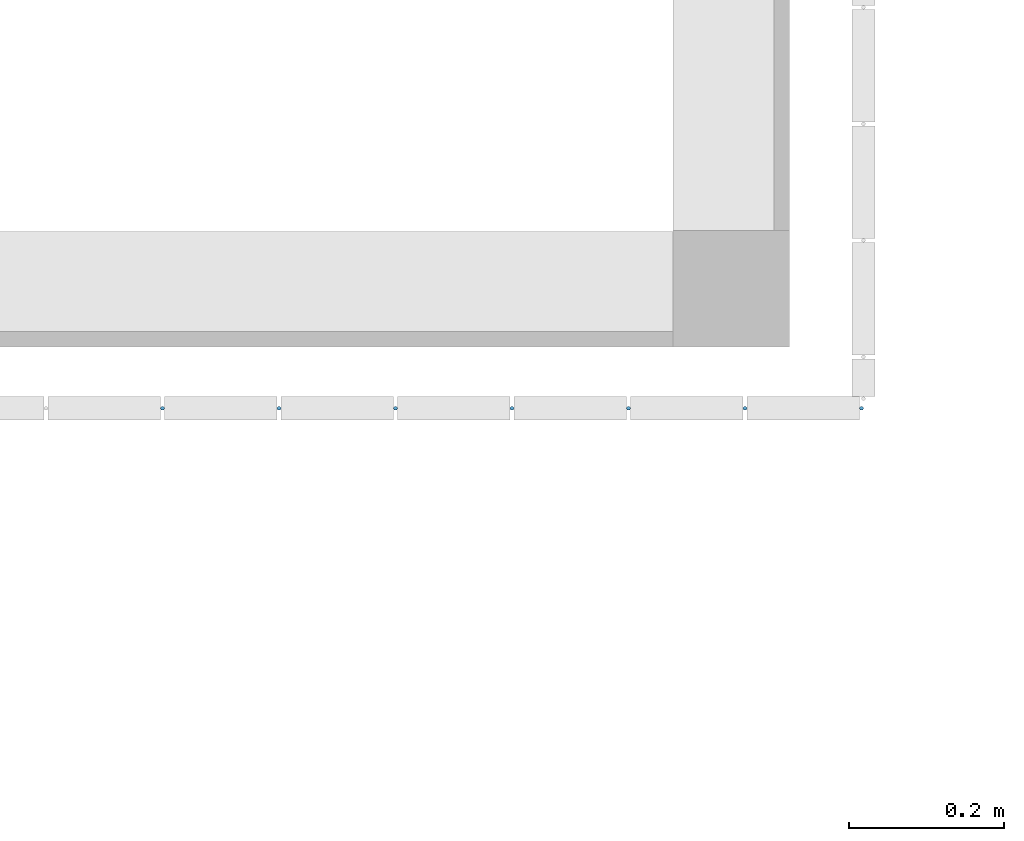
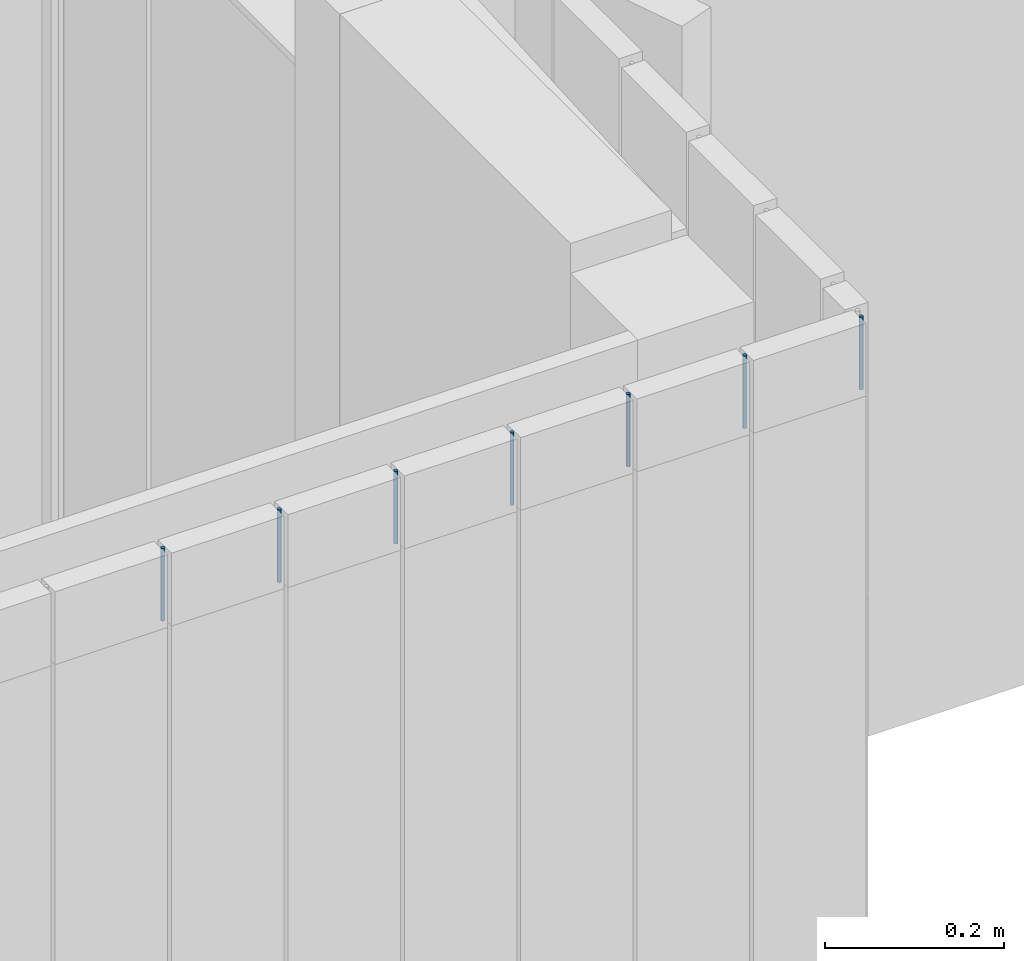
# One storey, part 64 of 81: 7 members, 1 element without a shape of its own.
"""IFC2X3 building model written with IfcOpenShell, lengths in metres."""

from ifc_helpers import new_model, entity, si_unit, converted_unit, derived_unit, direction, frame, frame_2d, origin, place, context, subcontext, project, spatial, circle, extrude, source, transform, mapped, material, type_object, type_shapes, element, aggregate, save


model = new_model("IFC2X3")

# Units and contexts
model_context = context("Model", 3, precision=1e-05, world=origin(), true_north=direction((6.12303176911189e-17, 1.0)))
body_context = subcontext(model_context, "Body", "Model", "MODEL_VIEW")
ifc_project = project(units=[si_unit("LENGTHUNIT", "METRE"), si_unit("AREAUNIT", "SQUARE_METRE"), si_unit("VOLUMEUNIT", "CUBIC_METRE"), converted_unit("PLANEANGLEUNIT", "DEGREE", entity("IfcRatioMeasure", 0.0174532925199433), si_unit("PLANEANGLEUNIT", "RADIAN"), dimensions=[0, 0, 0, 0, 0, 0, 0]), si_unit("MASSUNIT", "GRAM", prefix="KILO"), derived_unit("MASSDENSITYUNIT", [(si_unit("MASSUNIT", "GRAM", prefix="KILO"), 1), (si_unit("LENGTHUNIT", "METRE"), -3)]), derived_unit("MOMENTOFINERTIAUNIT", [(si_unit("LENGTHUNIT", "METRE"), 4)]), si_unit("TIMEUNIT", "SECOND"), si_unit("FREQUENCYUNIT", "HERTZ"), si_unit("THERMODYNAMICTEMPERATUREUNIT", "DEGREE_CELSIUS"), derived_unit("THERMALTRANSMITTANCEUNIT", [(si_unit("MASSUNIT", "GRAM", prefix="KILO"), 1), (si_unit("THERMODYNAMICTEMPERATUREUNIT", "KELVIN"), -1), (si_unit("TIMEUNIT", "SECOND"), -3)]), derived_unit("VOLUMETRICFLOWRATEUNIT", [(si_unit("LENGTHUNIT", "METRE"), 3), (si_unit("TIMEUNIT", "SECOND"), -1)]), si_unit("ELECTRICCURRENTUNIT", "AMPERE"), si_unit("ELECTRICVOLTAGEUNIT", "VOLT"), si_unit("POWERUNIT", "WATT"), si_unit("FORCEUNIT", "NEWTON", prefix="KILO"), si_unit("ILLUMINANCEUNIT", "LUX"), si_unit("LUMINOUSFLUXUNIT", "LUMEN"), si_unit("LUMINOUSINTENSITYUNIT", "CANDELA"), derived_unit("USERDEFINED", [(si_unit("MASSUNIT", "GRAM", prefix="KILO"), -1), (si_unit("LENGTHUNIT", "METRE"), -2), (si_unit("TIMEUNIT", "SECOND"), 3), (si_unit("LUMINOUSFLUXUNIT", "LUMEN"), 1)]), derived_unit("LINEARVELOCITYUNIT", [(si_unit("LENGTHUNIT", "METRE"), 1), (si_unit("TIMEUNIT", "SECOND"), -1)]), si_unit("PRESSUREUNIT", "PASCAL"), derived_unit("USERDEFINED", [(si_unit("LENGTHUNIT", "METRE"), -2), (si_unit("MASSUNIT", "GRAM", prefix="KILO"), 1), (si_unit("TIMEUNIT", "SECOND"), -2)]), derived_unit("LINEARFORCEUNIT", [(si_unit("MASSUNIT", "GRAM", prefix="KILO"), 1), (si_unit("LENGTHUNIT", "METRE"), 1), (si_unit("TIMEUNIT", "SECOND"), -2), (si_unit("LENGTHUNIT", "METRE"), -1)]), derived_unit("PLANARFORCEUNIT", [(si_unit("MASSUNIT", "GRAM", prefix="KILO"), 1), (si_unit("LENGTHUNIT", "METRE"), 1), (si_unit("TIMEUNIT", "SECOND"), -2), (si_unit("LENGTHUNIT", "METRE"), -2)])], contexts=[model_context])

# Site, building, storey
site_placement = place(None, origin())
site = spatial("IfcSite", under=ifc_project, at=site_placement, Name="Surface", CompositionType="ELEMENT")
building_placement = place(site_placement, origin())
building = spatial("IfcBuilding", under=site, at=building_placement, CompositionType="ELEMENT")
storey_placement = place(building_placement, origin())
storey = spatial("IfcBuildingStorey", under=building, at=storey_placement, Name="01 RDC", CompositionType="ELEMENT", Elevation=-1.94916083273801e-14)

# Curtain wall, members
curtain_wall_type = type_object("IfcCurtainWallType", Name="Mur-rideau:1m x 2m", PredefinedType="NOTDEFINED")
curtain_wall_placement = place(storey_placement, origin())
curtain_wall = element("IfcCurtainWall", 1, at=curtain_wall_placement, inside=storey, type_object=curtain_wall_type, Name="Mur-rideau:1m x 2m", ObjectType="Mur-rideau:1m x 2m")
ifc_material = material(Name="Aluminium - Vert")
member_type_1 = type_object("IfcMemberType", Name="Meneau circulaire:R-30 mm", PredefinedType="MULLION", material=ifc_material)
shared_shape_1 = source(origin(), body_context, "Body", "SweptSolid", [
    extrude(circle(Radius=0.0025, at=frame_2d((4.87858217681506e-31, -1.5609762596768e-16), x_axis=(1.0, 0.0))), frame((-0.0025, 0.0, -0.0992255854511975)), (0.0, 0.0, 1.0), 0.0992255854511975),
])
type_shapes(member_type_1, [shared_shape_1])
member_1_placement = place(storey_placement, frame((8.02156158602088, -6.30971095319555, 2.3992255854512)))
member_1 = element("IfcMember", 2, at=member_1_placement, type_object=member_type_1, material=ifc_material, Name="Meneau circulaire:R-30 mm", ObjectType="Meneau circulaire:R-30 mm", context=body_context, shape_type="MappedRepresentation", body=[
    mapped(shared_shape_1, transform((0.0, 0.0, 0.0), scale=1.0)),
])
member_type_2 = type_object("IfcMemberType", Name="Meneau circulaire:R-30 mm", PredefinedType="MULLION", material=ifc_material)
shared_shape_2 = source(origin(), body_context, "Body", "SweptSolid", [
    extrude(circle(Radius=0.0025, at=frame_2d((2.64371857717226e-19, 1.64466088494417e-16), x_axis=(1.0, 0.0))), frame((0.0, 0.0, -0.0992255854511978), z_axis=(0.0, 0.0, 1.0), x_axis=(-1.0, 0.0, 0.0)), (0.0, 0.0, 1.0), 0.0992255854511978),
])
type_shapes(member_type_2, [shared_shape_2])
member_2_placement = place(storey_placement, frame((7.11906158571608, -6.30971095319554, 2.3), z_axis=(0.0, 0.0, -1.0), x_axis=(-1.0, 0.0, 0.0)))
member_2 = element("IfcMember", 3, at=member_2_placement, type_object=member_type_2, material=ifc_material, Name="Meneau circulaire:R-30 mm", ObjectType="Meneau circulaire:R-30 mm", context=body_context, shape_type="MappedRepresentation", body=[
    mapped(shared_shape_2, transform((0.0, 0.0, 0.0), scale=1.0)),
])
member_3_placement = place(storey_placement, frame((7.26906158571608, -6.30971095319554, 2.3), z_axis=(0.0, 0.0, -1.0), x_axis=(-1.0, 0.0, 0.0)))
member_3 = element("IfcMember", 4, at=member_3_placement, type_object=member_type_2, material=ifc_material, Name="Meneau circulaire:R-30 mm", ObjectType="Meneau circulaire:R-30 mm", context=body_context, shape_type="MappedRepresentation", body=[
    mapped(shared_shape_2, transform((0.0, 0.0, 0.0), scale=1.0)),
])
member_4_placement = place(storey_placement, frame((7.41906158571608, -6.30971095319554, 2.3), z_axis=(0.0, 0.0, -1.0), x_axis=(-1.0, 0.0, 0.0)))
member_4 = element("IfcMember", 5, at=member_4_placement, type_object=member_type_2, material=ifc_material, Name="Meneau circulaire:R-30 mm", ObjectType="Meneau circulaire:R-30 mm", context=body_context, shape_type="MappedRepresentation", body=[
    mapped(shared_shape_2, transform((0.0, 0.0, 0.0), scale=1.0)),
])
member_5_placement = place(storey_placement, frame((7.56906158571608, -6.30971095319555, 2.3), z_axis=(0.0, 0.0, -1.0), x_axis=(-1.0, 0.0, 0.0)))
member_5 = element("IfcMember", 6, at=member_5_placement, type_object=member_type_2, material=ifc_material, Name="Meneau circulaire:R-30 mm", ObjectType="Meneau circulaire:R-30 mm", context=body_context, shape_type="MappedRepresentation", body=[
    mapped(shared_shape_2, transform((0.0, 0.0, 0.0), scale=1.0)),
])
member_6_placement = place(storey_placement, frame((7.71906158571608, -6.30971095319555, 2.3), z_axis=(0.0, 0.0, -1.0), x_axis=(-1.0, 0.0, 0.0)))
member_6 = element("IfcMember", 7, at=member_6_placement, type_object=member_type_2, material=ifc_material, Name="Meneau circulaire:R-30 mm", ObjectType="Meneau circulaire:R-30 mm", context=body_context, shape_type="MappedRepresentation", body=[
    mapped(shared_shape_2, transform((0.0, 0.0, 0.0), scale=1.0)),
])
member_7_placement = place(storey_placement, frame((7.86906158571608, -6.30971095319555, 2.3), z_axis=(0.0, 0.0, -1.0), x_axis=(-1.0, 0.0, 0.0)))
member_7 = element("IfcMember", 8, at=member_7_placement, type_object=member_type_2, material=ifc_material, Name="Meneau circulaire:R-30 mm", ObjectType="Meneau circulaire:R-30 mm", context=body_context, shape_type="MappedRepresentation", body=[
    mapped(shared_shape_2, transform((0.0, 0.0, 0.0), scale=1.0)),
])
aggregate(curtain_wall, [member_1, member_2, member_3, member_4, member_5, member_6, member_7])

save(model, "model.ifc")
